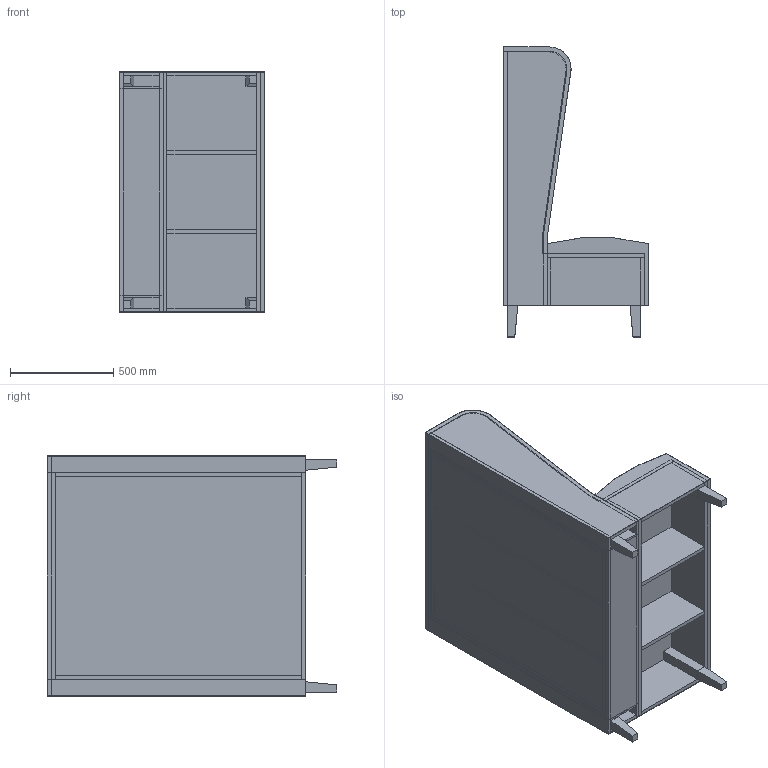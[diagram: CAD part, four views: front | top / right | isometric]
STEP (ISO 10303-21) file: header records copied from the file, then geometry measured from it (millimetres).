
FILE_DESCRIPTION (( 'STEP AP214' ), '1' );
FILE_NAME ('Banquette TRACY.STEP', '2025-07-15T14:56:11', ( '' ), ( '' ), 'SwSTEP 2.0', 'SolidWorks 2021', '' );
FILE_SCHEMA (( 'AUTOMOTIVE_DESIGN' ));
Length unit declared in the file: millimetre
Products named in the file (1): Banquette TRACY
Bounding box: 700 x 1400 x 1164 mm (x, y, z)
Volume: 203624042.3 mm3; surface area: 21778618.6 mm2
Topology: 62 solids, 62 shells, 468 faces, 1028 edges, 684 vertices
Faces by surface type: plane 437, cylinder 31
Entity records: 15625 total; most frequent: CARTESIAN_POINT 2181, ORIENTED_EDGE 2056, DIRECTION 2028, EDGE_CURVE 1028, LINE 966, VECTOR 966, VERTEX_POINT 684, AXIS2_PLACEMENT_3D 531
